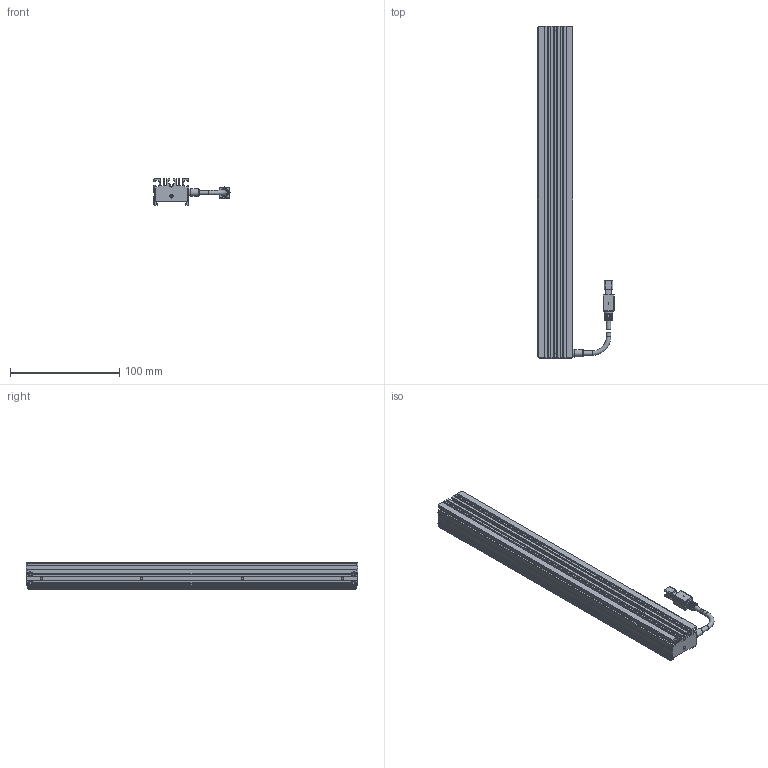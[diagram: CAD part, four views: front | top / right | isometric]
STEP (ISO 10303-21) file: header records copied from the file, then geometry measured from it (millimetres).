
FILE_DESCRIPTION (( 'STEP AP203' ), '1' );
FILE_NAME ('OPT-ULI30432W-UV-V1.0尨砩芞.STEP', '2024-12-11T03:40:32', ( '' ), ( '' ), 'SwSTEP 2.0', 'SolidWorks 2016', '' );
FILE_SCHEMA (( 'CONFIG_CONTROL_DESIGN' ));
Length unit declared in the file: millimetre
Products named in the file (1): OPT-ULI30432W-UV-V1.0尨砩芞
Bounding box: 69.6 x 304 x 24 mm (x, y, z)
Volume: 167298.8 mm3; surface area: 76087.7 mm2
Topology: 8 solids, 16 shells, 606 faces, 1559 edges, 996 vertices
Faces by surface type: plane 410, cylinder 139, cone 28, bspline 21, torus 8
Full cylindrical faces by diameter (mm): 1.1 x2, 1.4 x2, 1.6 x7, 2 x15, 2.4 x7, 2.5 x2, 3 x2, 3.5 x1, 4.1 x4, 5.8 x1, 6.5 x1, 7 x1, 7.5 x1
Entity records: 18397 total; most frequent: CARTESIAN_POINT 4249, ORIENTED_EDGE 2886, DIRECTION 2812, EDGE_CURVE 1443, LINE 1004, VECTOR 1004, VERTEX_POINT 961, AXIS2_PLACEMENT_3D 904
